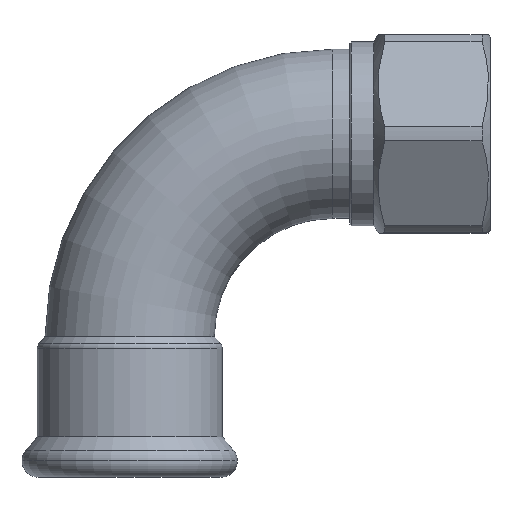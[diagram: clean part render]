
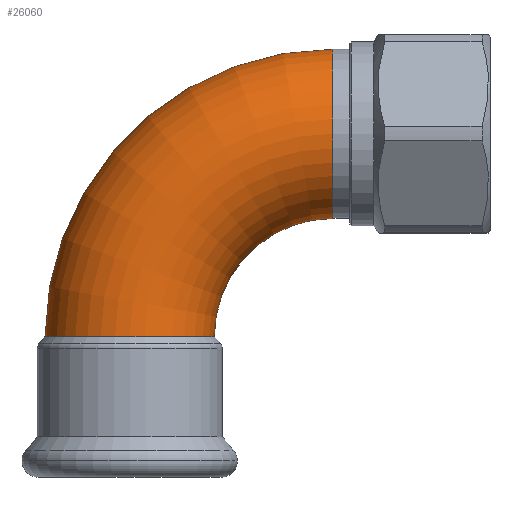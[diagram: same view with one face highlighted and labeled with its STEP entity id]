
A CAD part, top view. The second image highlights one B-rep face of the part: STEP entity #26060.
In plain terms, the highlighted toroidal (fillet/blend) face has major radius 42 mm and minor radius 17.5 mm.
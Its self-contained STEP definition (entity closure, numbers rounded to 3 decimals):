
#11160=CARTESIAN_POINT('',(-137.071,-473.955,
0.));
#11170=DIRECTION('',(0.,-1.,0.));
#11180=DIRECTION('',(1.,0.,0.));
#11190=AXIS2_PLACEMENT_3D('',#11160,#11170,#11180);
#11200=CIRCLE('',#11190,17.5);
#11210=CARTESIAN_POINT('',(-119.571,-473.955,
0.));
#11220=VERTEX_POINT('',#11210);
#11230=CARTESIAN_POINT('',(-154.571,-473.955,
0.));
#11240=VERTEX_POINT('',#11230);
#11250=EDGE_CURVE('',#11220,#11240,#11200,.T.);
#18120=CARTESIAN_POINT('',(-95.071,-473.955,
0.));
#18130=DIRECTION('',(0.,0.,1.));
#18140=DIRECTION('',(0.,1.,0.));
#18150=AXIS2_PLACEMENT_3D('',#18120,#18130,#18140);
#18160=TOROIDAL_SURFACE('',#18150,42.,17.5);
#18170=CARTESIAN_POINT('',(-95.071,-473.955,
0.));
#18180=DIRECTION('',(0.,0.,1.));
#18190=DIRECTION('',(0.,1.,0.));
#18200=AXIS2_PLACEMENT_3D('',#18170,#18180,#18190);
#18210=CIRCLE('',#18200,24.5);
#18220=CARTESIAN_POINT('',(-95.071,-449.455,
0.));
#18230=VERTEX_POINT('',#18220);
#18240=EDGE_CURVE('',#18230,#11220,#18210,.T.);
#18310=CARTESIAN_POINT('',(-95.071,-414.455,
0.));
#18320=VERTEX_POINT('',#18310);
#18350=CARTESIAN_POINT('',(-95.071,-473.955,
0.));
#18360=DIRECTION('',(0.,0.,1.));
#18370=DIRECTION('',(0.,1.,0.));
#18380=AXIS2_PLACEMENT_3D('',#18350,#18360,#18370);
#18390=CIRCLE('',#18380,59.5);
#18400=EDGE_CURVE('',#18320,#11240,#18390,.T.);
#24770=CARTESIAN_POINT('',(-95.071,-431.955,
0.));
#24780=DIRECTION('',(-1.,0.,0.));
#24790=DIRECTION('',(0.,-1.,0.));
#24800=AXIS2_PLACEMENT_3D('',#24770,#24780,#24790);
#24810=CIRCLE('',#24800,17.5);
#24820=EDGE_CURVE('',#18230,#18320,#24810,.T.);
#26000=ORIENTED_EDGE('',*,*,#11250,.F.);
#26010=ORIENTED_EDGE('',*,*,#18400,.T.);
#26020=ORIENTED_EDGE('',*,*,#24820,.T.);
#26030=ORIENTED_EDGE('',*,*,#18240,.F.);
#26040=EDGE_LOOP('',(#26030,#26020,#26010,#26000));
#26050=FACE_OUTER_BOUND('',#26040,.T.);
#26060=ADVANCED_FACE('',(#26050),#18160,.T.);
